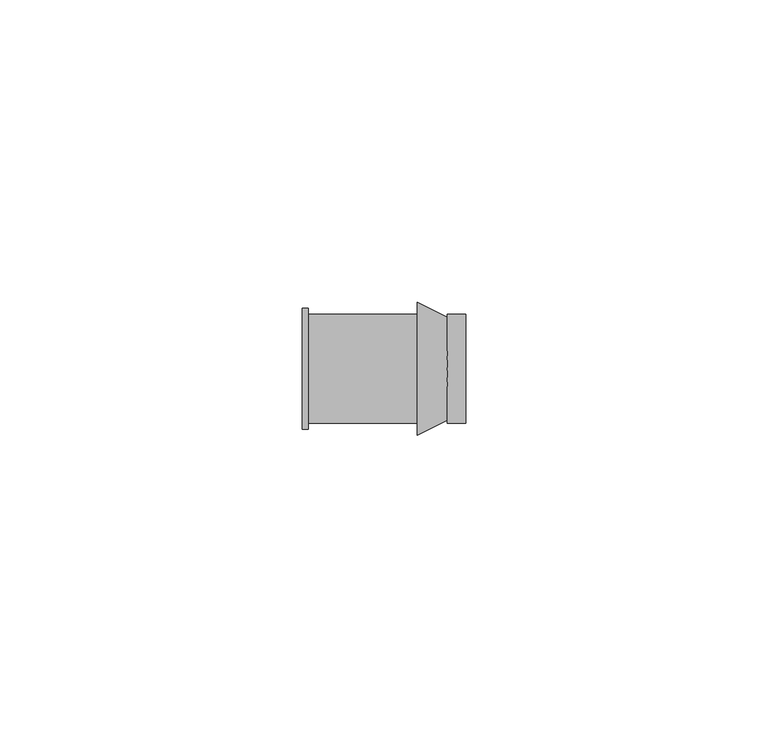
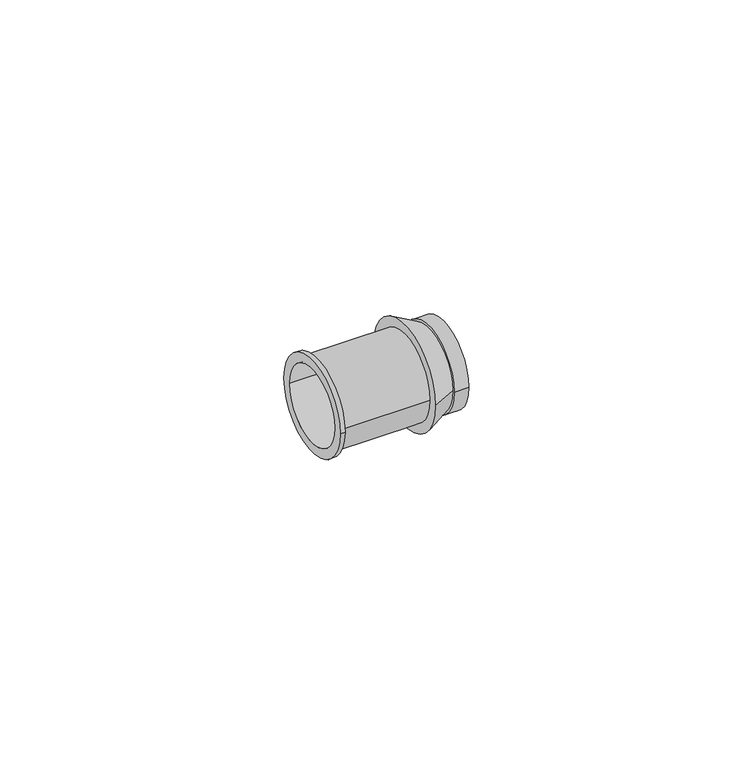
"""IFC4 building model written with IfcOpenShell, lengths in millimetres: pipe fitting geometry, SuperPipe_StopEnd_SPressPlus : SuperPipe_StopEnd_SPressPlus."""

from ifc_helpers import new_model, si_unit, point, frame, origin, origin_2d, place, context, project, spatial, polyline, circle_curve, trimmed, segment, composite_curve, outline, extrude, source, transform, mapped, element, save
from ifc_brep_helpers import plane_surface, cylinder_surface, revolved_surface, advanced_brep


def pipe_fitting_efbe42bf(model_context):
    return source(origin(), model_context, "Body", "SolidModel", [
        advanced_brep(
        [(-24.0, -10.0, 0.0), (-24.0, 10.0, 0.0), (-24.0, -8.0, 0.0), (-24.0, 8.0, 0.0), (-5.0, -9.0, 0.0), (-5.0, 9.0, 0.0), (-5.0, -8.0, 0.0), (-5.0, 8.0, 0.0), (-23.0, -8.0, 0.0), (-23.0, 8.0, 0.0), (-23.0, 9.0, 0.0), (-23.0, -9.0, 0.0), (-23.0, -10.0, 0.0), (-23.0, 10.0, 0.0)],
        [
            (0, 1, circle_curve(frame((-24.0, 0.0, 0.0), z_axis=(-1.0, 0.0, 0.0), x_axis=(0.0, 1.0, 0.0)), 10.0)),
            (1, 0, circle_curve(frame((-24.0, 0.0, 0.0), z_axis=(-1.0, 0.0, 0.0), x_axis=(0.0, 1.0, 0.0)), 10.0)),
            (2, 3, circle_curve(frame((-24.0, 0.0, 0.0), z_axis=(1.0, 0.0, 0.0), x_axis=(0.0, 1.0, 0.0)), 8.0)),
            (3, 2, circle_curve(frame((-24.0, 0.0, 0.0), z_axis=(1.0, 0.0, 0.0), x_axis=(0.0, 1.0, 0.0)), 8.0)),
            (4, 5, circle_curve(frame((-5.0, 0.0, 0.0), z_axis=(1.0, 0.0, 0.0), x_axis=(0.0, 1.0, 0.0)), 9.0)),
            (5, 4, circle_curve(frame((-5.0, 0.0, 0.0), z_axis=(1.0, 0.0, 0.0), x_axis=(0.0, 1.0, 0.0)), 9.0)),
            (6, 7, circle_curve(frame((-5.0, 0.0, 0.0), z_axis=(-1.0, 0.0, 0.0), x_axis=(0.0, 1.0, 0.0)), 8.0)),
            (7, 6, circle_curve(frame((-5.0, 0.0, 0.0), z_axis=(-1.0, 0.0, 0.0), x_axis=(0.0, 1.0, 0.0)), 8.0)),
            (2, 8),
            (8, 6),
            (7, 9),
            (9, 3),
            (5, 10),
            (10, 11, circle_curve(frame((-23.0, 0.0, 0.0), z_axis=(1.0, 0.0, 0.0), x_axis=(0.0, 1.0, 0.0)), 9.0)),
            (11, 4),
            (11, 10, circle_curve(frame((-23.0, 0.0, 0.0), z_axis=(1.0, 0.0, 0.0), x_axis=(0.0, 1.0, 0.0)), 9.0)),
            (12, 13, circle_curve(frame((-23.0, 0.0, 0.0), z_axis=(1.0, 0.0, 0.0), x_axis=(0.0, 1.0, 0.0)), 10.0)),
            (13, 12, circle_curve(frame((-23.0, 0.0, 0.0), z_axis=(1.0, 0.0, 0.0), x_axis=(0.0, 1.0, 0.0)), 10.0)),
            (0, 12),
            (13, 1),
        ],
        [
            plane_surface(frame((-24.0, 0.0, 0.0), z_axis=(-1.0, 0.0, 0.0), x_axis=(0.0, 0.0, 1.0))),
            plane_surface(frame((-5.0, 0.0, 0.0), z_axis=(1.0, 0.0, 0.0), x_axis=(0.0, 0.0, 1.0))),
            revolved_surface(polyline([(-5.0, 8.0, 0.0), (-24.0, 8.0, 0.0)]), (-24.0, 0.0, 0.0), (1.0, 0.0, 0.0)),
            cylinder_surface(frame((-24.0, 0.0, 0.0), z_axis=(-1.0, 0.0, 0.0), x_axis=(0.0, 1.0, 0.0)), 9.0),
            plane_surface(frame((-23.0, 0.0, 0.0), z_axis=(1.0, 0.0, 0.0), x_axis=(0.0, 0.0, 1.0))),
            cylinder_surface(frame((-24.0, 0.0, 0.0), z_axis=(-1.0, 0.0, 0.0), x_axis=(0.0, 1.0, 0.0)), 10.0),
        ],
        [
            (0, [[1, 2], [3, 4]]),
            (1, [[5, 6], [7, 8]]),
            (2, [[-3, 9, 10, -8, 11, 12]]),
            (2, [[-4, -12, -11, -7, -10, -9]]),
            (3, [[-6, 13, 14, 15]]),
            (3, [[-5, -15, 16, -13]]),
            (4, [[17, 18], [-14, -16]]),
            (5, [[-1, 19, -18, 20]]),
            (5, [[-2, -20, -17, -19]]),
        ],
    ),
        advanced_brep(
        [(0.0, -8.5, 0.0), (0.0, 8.5, 0.0), (0.0, 8.0, 0.0), (0.0, -8.0, 0.0), (-5.0, -11.0, 0.0), (-5.0, 11.0, 0.0), (-5.0, -8.0, 0.0), (-5.0, 8.0, 0.0)],
        [
            (0, 1, circle_curve(frame((0.0, 0.0, 0.0), z_axis=(1.0, 0.0, 0.0), x_axis=(0.0, -1.0, 0.0)), 8.5)),
            (1, 0, circle_curve(frame((0.0, 0.0, 0.0), z_axis=(1.0, 0.0, 0.0), x_axis=(0.0, 1.0, 0.0)), 8.5)),
            (2, 3, circle_curve(frame((0.0, 0.0, 0.0), z_axis=(-1.0, 0.0, 0.0), x_axis=(0.0, 1.0, 0.0)), 8.0)),
            (3, 2, circle_curve(frame((0.0, 0.0, 0.0), z_axis=(-1.0, 0.0, 0.0), x_axis=(0.0, 1.0, 0.0)), 8.0)),
            (4, 5, circle_curve(frame((-5.0, 0.0, 0.0), z_axis=(-1.0, 0.0, 0.0), x_axis=(0.0, 1.0, 0.0)), 11.0)),
            (5, 4, circle_curve(frame((-5.0, 0.0, 0.0), z_axis=(-1.0, 0.0, 0.0), x_axis=(0.0, -1.0, 0.0)), 11.0)),
            (6, 7, circle_curve(frame((-5.0, 0.0, 0.0), z_axis=(1.0, 0.0, 0.0), x_axis=(0.0, 1.0, 0.0)), 8.0)),
            (7, 6, circle_curve(frame((-5.0, 0.0, 0.0), z_axis=(1.0, 0.0, 0.0), x_axis=(0.0, 1.0, 0.0)), 8.0)),
            (0, 4),
            (5, 1),
            (2, 7),
            (6, 3),
        ],
        [
            plane_surface(frame((0.0, 0.0, 0.0), z_axis=(1.0, 0.0, 0.0), x_axis=(0.0, 0.0, -1.0))),
            plane_surface(frame((-5.0, 0.0, 0.0), z_axis=(-1.0, 0.0, 0.0), x_axis=(0.0, 0.0, -1.0))),
            revolved_surface(polyline([(0.0, -8.5, 0.0), (-5.0, -11.0, 0.0)]), (17.0, 0.0, 0.0), (-1.0, 0.0, 0.0)),
            revolved_surface(polyline([(0.0, 8.5, 0.0), (-5.0, 11.0, 0.0)]), (17.0, 0.0, 0.0), (-1.0, 0.0, 0.0)),
            revolved_surface(polyline([(0.0, 8.0, 0.0), (-5.0, 8.0, 0.0)]), (-5.0, 0.0, 0.0), (1.0, 0.0, 0.0)),
        ],
        [
            (0, [[1, 2], [3, 4]]),
            (1, [[5, 6], [7, 8]]),
            (2, [[-1, 9, -6, 10]]),
            (3, [[-2, -10, -5, -9]]),
            (4, [[11, -7, 12, -3]]),
            (4, [[-11, -4, -12, -8]]),
        ],
    ),
        extrude(outline(composite_curve([segment(trimmed(circle_curve(origin_2d(), 9.0), [point((-9.0, 0.0))], [point((9.0, 0.0))], False, "CARTESIAN"), True, "CONTINUOUS"), segment(trimmed(circle_curve(origin_2d(), 9.0), [point((9.0, 0.0))], [point((-9.0, 0.0))], False, "CARTESIAN"), True, "CONTINUOUS")], self_intersect=False)), frame((0.0, 0.0, 0.0), z_axis=(1.0, 0.0, 0.0), x_axis=(0.0, 1.0, 0.0)), (0.0, 0.0, 1.0), 3.0),
    ])


if __name__ == "__main__":
    model = new_model("IFC4")
    model_context = context("Model", 3, world=origin())
    ifc_project = project(units=[si_unit("LENGTHUNIT", "METRE", prefix="MILLI")], contexts=[model_context])
    site = spatial("IfcSite", under=ifc_project)
    building = spatial("IfcBuilding", under=site)
    placement = place(None, origin())
    pipe_fitting_shape = pipe_fitting_efbe42bf(model_context)
    element("IfcPipeFitting", 1, ObjectType="SuperPipe_StopEnd_SPressPlus : SuperPipe_StopEnd_SPressPlus", at=placement, inside=building, context=model_context, shape_type="MappedRepresentation", body=[
        mapped(pipe_fitting_shape, transform((0.0, 0.0, 0.0), x_axis=(1.0, 0.0, 0.0), y_axis=(0.0, 1.0, 0.0), z_axis=(0.0, 0.0, 1.0))),
    ])
    save(model, "model.ifc")
